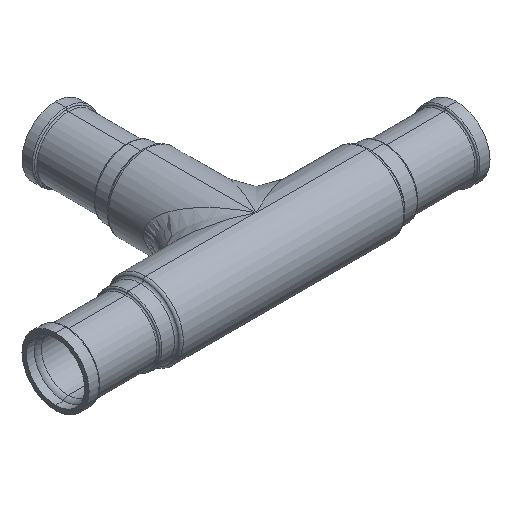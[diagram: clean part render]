
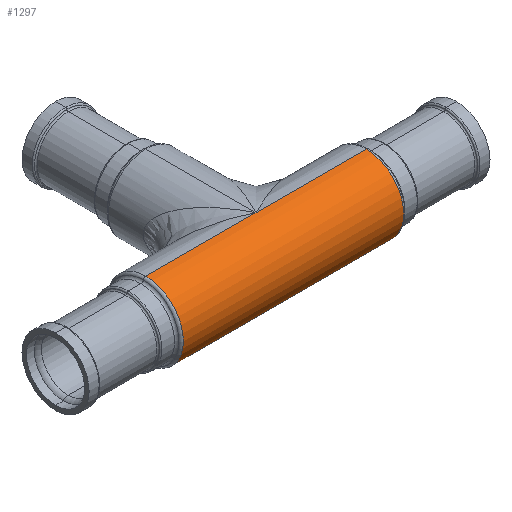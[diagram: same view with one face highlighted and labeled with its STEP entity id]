
A CAD part, isometric view. The second image highlights one B-rep face of the part: STEP entity #1297.
In plain terms, the highlighted cylindrical face has radius 15 mm (diameter 30 mm), a partial arc.
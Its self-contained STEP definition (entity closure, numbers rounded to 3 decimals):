
#138 = VECTOR ( 'NONE', #1595, 1000. ) ;
#188 = DIRECTION ( 'NONE',  ( 1., 0., 0. ) ) ;
#251 = EDGE_CURVE ( 'NONE', #705, #2056, #2498, .T. ) ;
#353 = CARTESIAN_POINT ( 'NONE',  ( 0., 0., 15. ) ) ;
#387 = CIRCLE ( 'NONE', #1384, 15. ) ;
#447 = CARTESIAN_POINT ( 'NONE',  ( 43.98, 0., -15. ) ) ;
#453 = ORIENTED_EDGE ( 'NONE', *, *, #251, .T. ) ;
#504 = EDGE_CURVE ( 'NONE', #573, #705, #1453, .T. ) ;
#544 = VECTOR ( 'NONE', #2599, 1000. ) ;
#573 = VERTEX_POINT ( 'NONE', #2173 ) ;
#643 = CIRCLE ( 'NONE', #911, 15. ) ;
#677 = EDGE_CURVE ( 'NONE', #2517, #2165, #1799, .T. ) ;
#705 = VERTEX_POINT ( 'NONE', #353 ) ;
#856 = ORIENTED_EDGE ( 'NONE', *, *, #1872, .F. ) ;
#911 = AXIS2_PLACEMENT_3D ( 'NONE', #2410, #1286, #2712 ) ;
#971 = ORIENTED_EDGE ( 'NONE', *, *, #677, .F. ) ;
#1067 = CARTESIAN_POINT ( 'NONE',  ( -43.907, 0., 0. ) ) ;
#1199 = EDGE_CURVE ( 'NONE', #2056, #2165, #387, .T. ) ;
#1286 = DIRECTION ( 'NONE',  ( 1., 0., 0. ) ) ;
#1297 = ADVANCED_FACE ( 'NONE', ( #2922 ), #1495, .T. ) ;
#1384 = AXIS2_PLACEMENT_3D ( 'NONE', #2415, #188, #2694 ) ;
#1453 = LINE ( 'NONE', #1565, #138 ) ;
#1495 = CYLINDRICAL_SURFACE ( 'NONE', #2193, 15. ) ;
#1531 = CARTESIAN_POINT ( 'NONE',  ( -43.907, 0., -15. ) ) ;
#1537 = VECTOR ( 'NONE', #2203, 1000. ) ;
#1565 = CARTESIAN_POINT ( 'NONE',  ( -43.907, 0., 15. ) ) ;
#1595 = DIRECTION ( 'NONE',  ( -1., 0., 0. ) ) ;
#1757 = CARTESIAN_POINT ( 'NONE',  ( -43.98, 0., -15. ) ) ;
#1799 = LINE ( 'NONE', #1922, #1537 ) ;
#1872 = EDGE_CURVE ( 'NONE', #573, #3302, #643, .T. ) ;
#1922 = CARTESIAN_POINT ( 'NONE',  ( -43.907, 0., -15. ) ) ;
#2056 = VERTEX_POINT ( 'NONE', #2925 ) ;
#2059 = DIRECTION ( 'NONE',  ( -1., 0., 0. ) ) ;
#2165 = VERTEX_POINT ( 'NONE', #1757 ) ;
#2173 = CARTESIAN_POINT ( 'NONE',  ( 43.98, 0., 15. ) ) ;
#2182 = DIRECTION ( 'NONE',  ( -1., 0., 0. ) ) ;
#2193 = AXIS2_PLACEMENT_3D ( 'NONE', #1067, #2182, #3589 ) ;
#2203 = DIRECTION ( 'NONE',  ( -1., 0., 0. ) ) ;
#2235 = CARTESIAN_POINT ( 'NONE',  ( 0., 0., -15. ) ) ;
#2314 = CARTESIAN_POINT ( 'NONE',  ( -43.907, 0., 15. ) ) ;
#2410 = CARTESIAN_POINT ( 'NONE',  ( 43.98, 0., 0. ) ) ;
#2415 = CARTESIAN_POINT ( 'NONE',  ( -43.98, 0., 0. ) ) ;
#2498 = LINE ( 'NONE', #2314, #3324 ) ;
#2517 = VERTEX_POINT ( 'NONE', #2235 ) ;
#2599 = DIRECTION ( 'NONE',  ( -1., 0., 0. ) ) ;
#2658 = ORIENTED_EDGE ( 'NONE', *, *, #2842, .F. ) ;
#2694 = DIRECTION ( 'NONE',  ( 0., 0., -1. ) ) ;
#2712 = DIRECTION ( 'NONE',  ( 0., 0., -1. ) ) ;
#2842 = EDGE_CURVE ( 'NONE', #3302, #2517, #3604, .T. ) ;
#2903 = ORIENTED_EDGE ( 'NONE', *, *, #504, .T. ) ;
#2922 = FACE_OUTER_BOUND ( 'NONE', #3595, .T. ) ;
#2925 = CARTESIAN_POINT ( 'NONE',  ( -43.98, 0., 15. ) ) ;
#3127 = ORIENTED_EDGE ( 'NONE', *, *, #1199, .T. ) ;
#3302 = VERTEX_POINT ( 'NONE', #447 ) ;
#3324 = VECTOR ( 'NONE', #2059, 1000. ) ;
#3589 = DIRECTION ( 'NONE',  ( 0., 0., 1. ) ) ;
#3595 = EDGE_LOOP ( 'NONE', ( #2658, #856, #2903, #453, #3127, #971 ) ) ;
#3604 = LINE ( 'NONE', #1531, #544 ) ;
